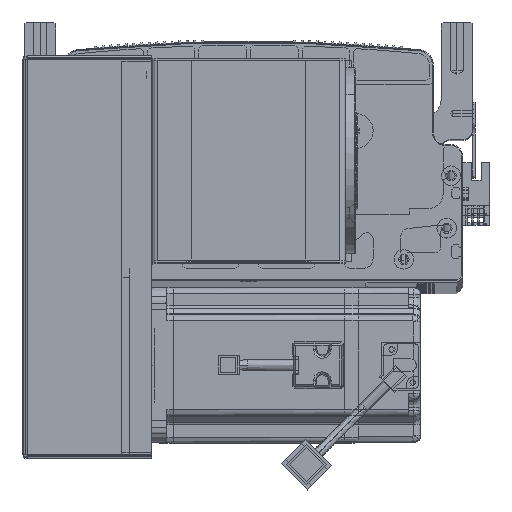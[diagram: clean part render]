
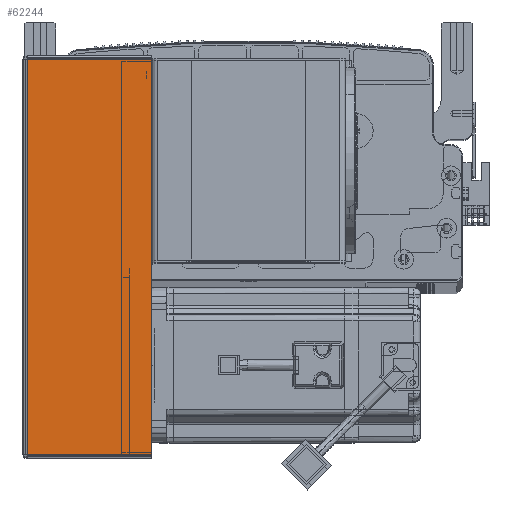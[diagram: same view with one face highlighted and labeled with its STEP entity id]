
A CAD part, top view. The second image highlights one B-rep face of the part: STEP entity #62244.
In plain terms, the highlighted planar face has unit normal (0, 0, 1) as drawn and (0, -1, 0) by its records, which use the part's own axes.
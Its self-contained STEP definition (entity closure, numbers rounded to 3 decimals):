
#290 = DIRECTION ( 'NONE',  ( 1., 0., 0. ) ) ;
#1220 = CARTESIAN_POINT ( 'NONE',  ( 64.5, -1.5, -203.293 ) ) ;
#2702 = PLANE ( 'NONE',  #83486 ) ;
#10076 = VERTEX_POINT ( 'NONE', #1220 ) ;
#18876 = CARTESIAN_POINT ( 'NONE',  ( 0.737, -1.5, -203.293 ) ) ;
#19120 = VECTOR ( 'NONE', #63032, 1000. ) ;
#23774 = EDGE_CURVE ( 'NONE', #40872, #64885, #80009, .T. ) ;
#25460 = DIRECTION ( 'NONE',  ( 0., 1., 0. ) ) ;
#28967 = CARTESIAN_POINT ( 'NONE',  ( 64.5, -1.5, -0.707 ) ) ;
#29514 = EDGE_LOOP ( 'NONE', ( #96033, #58541, #47656, #49426 ) ) ;
#32806 = FACE_OUTER_BOUND ( 'NONE', #29514, .T. ) ;
#33816 = VECTOR ( 'NONE', #290, 1000. ) ;
#40872 = VERTEX_POINT ( 'NONE', #88168 ) ;
#45029 = LINE ( 'NONE', #83488, #58364 ) ;
#47656 = ORIENTED_EDGE ( 'NONE', *, *, #72347, .T. ) ;
#47861 = LINE ( 'NONE', #78075, #56342 ) ;
#49426 = ORIENTED_EDGE ( 'NONE', *, *, #23774, .F. ) ;
#55892 = EDGE_CURVE ( 'NONE', #89531, #40872, #95657, .T. ) ;
#56342 = VECTOR ( 'NONE', #61751, 1000. ) ;
#57048 = DIRECTION ( 'NONE',  ( -1., 0., 0. ) ) ;
#58364 = VECTOR ( 'NONE', #98786, 1000. ) ;
#58541 = ORIENTED_EDGE ( 'NONE', *, *, #75126, .T. ) ;
#61751 = DIRECTION ( 'NONE',  ( 1., 0., 0. ) ) ;
#62244 = ADVANCED_FACE ( 'NONE', ( #32806 ), #2702, .F. ) ;
#63032 = DIRECTION ( 'NONE',  ( 0., 0., 1. ) ) ;
#63812 = CARTESIAN_POINT ( 'NONE',  ( 0., -1.5, 0. ) ) ;
#64369 = CARTESIAN_POINT ( 'NONE',  ( 0.737, -1.5, 0. ) ) ;
#64885 = VERTEX_POINT ( 'NONE', #28967 ) ;
#72347 = EDGE_CURVE ( 'NONE', #10076, #64885, #45029, .T. ) ;
#75126 = EDGE_CURVE ( 'NONE', #89531, #10076, #47861, .T. ) ;
#78075 = CARTESIAN_POINT ( 'NONE',  ( 0., -1.5, -203.293 ) ) ;
#80009 = LINE ( 'NONE', #85496, #33816 ) ;
#83486 = AXIS2_PLACEMENT_3D ( 'NONE', #63812, #25460, #57048 ) ;
#83488 = CARTESIAN_POINT ( 'NONE',  ( 64.5, -1.5, 0. ) ) ;
#85496 = CARTESIAN_POINT ( 'NONE',  ( 0., -1.5, -0.707 ) ) ;
#88168 = CARTESIAN_POINT ( 'NONE',  ( 0.737, -1.5, -0.707 ) ) ;
#89531 = VERTEX_POINT ( 'NONE', #18876 ) ;
#95657 = LINE ( 'NONE', #64369, #19120 ) ;
#96033 = ORIENTED_EDGE ( 'NONE', *, *, #55892, .F. ) ;
#98786 = DIRECTION ( 'NONE',  ( 0., 0., 1. ) ) ;
